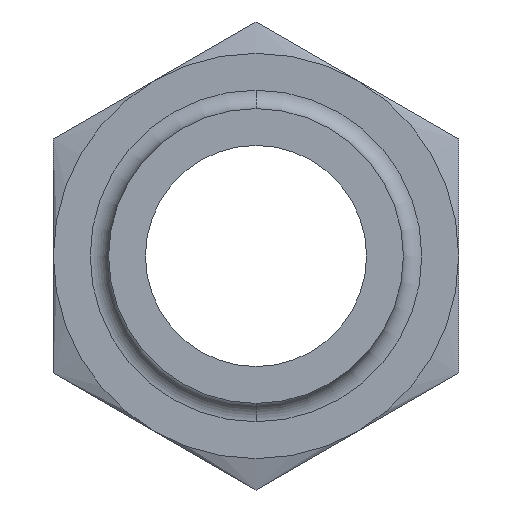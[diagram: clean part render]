
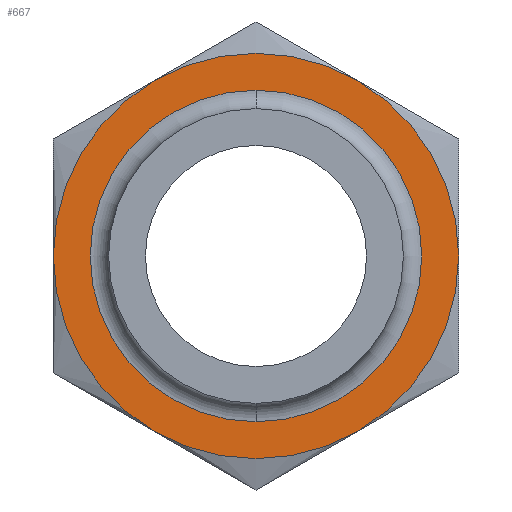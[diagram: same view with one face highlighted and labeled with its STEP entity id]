
A CAD part, left-side view. The second image highlights one B-rep face of the part: STEP entity #667.
In plain terms, the highlighted planar face has unit normal (-1, 0, 0).
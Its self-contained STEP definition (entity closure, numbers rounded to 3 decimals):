
#271 = VERTEX_POINT( '', #767 );
#273 = EDGE_CURVE( '', #395, #439, #769, .T. );
#281 = EDGE_CURVE( '', #337, #271, #777, .T. );
#325 = VERTEX_POINT( '', #827 );
#337 = VERTEX_POINT( '', #840 );
#359 = EDGE_CURVE( '', #497, #395, #865, .T. );
#395 = VERTEX_POINT( '', #907 );
#439 = VERTEX_POINT( '', #953 );
#455 = VERTEX_POINT( '', #972 );
#457 = VERTEX_POINT( '', #974 );
#497 = VERTEX_POINT( '', #1019 );
#539 = EDGE_CURVE( '', #271, #325, #1064, .T. );
#587 = EDGE_CURVE( '', #457, #455, #1113, .T. );
#593 = EDGE_CURVE( '', #439, #337, #1121, .T. );
#613 = EDGE_CURVE( '', #325, #497, #1144, .T. );
#641 = EDGE_CURVE( '', #455, #457, #1174, .T. );
#667 = ADVANCED_FACE( '', ( #1204, #1205 ), #1206, .T. );
#767 = CARTESIAN_POINT( '', ( -7., -2.75, -4.763 ) );
#769 = CIRCLE( '', #1313, 5.5 );
#777 = CIRCLE( '', #1326, 5.5 );
#827 = CARTESIAN_POINT( '', ( -7., -5.5, 0. ) );
#840 = CARTESIAN_POINT( '', ( -7., 2.75, -4.763 ) );
#865 = CIRCLE( '', #1447, 5.5 );
#907 = CARTESIAN_POINT( '', ( -7., 2.75, 4.763 ) );
#953 = CARTESIAN_POINT( '', ( -7., 5.5, 0. ) );
#972 = CARTESIAN_POINT( '', ( -7., -4.5, 0. ) );
#974 = CARTESIAN_POINT( '', ( -7., 4.5, 0. ) );
#1019 = CARTESIAN_POINT( '', ( -7., -2.75, 4.763 ) );
#1064 = CIRCLE( '', #1808, 5.5 );
#1113 = CIRCLE( '', #1902, 4.5 );
#1121 = CIRCLE( '', #1911, 5.5 );
#1144 = CIRCLE( '', #1949, 5.5 );
#1174 = CIRCLE( '', #1987, 4.5 );
#1204 = FACE_BOUND( '', #2024, .T. );
#1205 = FACE_OUTER_BOUND( '', #2025, .T. );
#1206 = PLANE( '', #2026 );
#1313 = AXIS2_PLACEMENT_3D( '', #2204, #2205, #2206 );
#1326 = AXIS2_PLACEMENT_3D( '', #2209, #2210, #2211 );
#1447 = AXIS2_PLACEMENT_3D( '', #2324, #2325, #2326 );
#1808 = AXIS2_PLACEMENT_3D( '', #2545, #2546, #2547 );
#1902 = AXIS2_PLACEMENT_3D( '', #2590, #2591, #2592 );
#1911 = AXIS2_PLACEMENT_3D( '', #2605, #2606, #2607 );
#1949 = AXIS2_PLACEMENT_3D( '', #2639, #2640, #2641 );
#1987 = AXIS2_PLACEMENT_3D( '', #2678, #2679, #2680 );
#2024 = EDGE_LOOP( '', ( #2728, #2729 ) );
#2025 = EDGE_LOOP( '', ( #2730, #2731, #2732, #2733, #2734, #2735 ) );
#2026 = AXIS2_PLACEMENT_3D( '', #2736, #2737, #2738 );
#2204 = CARTESIAN_POINT( '', ( -7., 0., 0. ) );
#2205 = DIRECTION( '', ( -1., 0., 0. ) );
#2206 = DIRECTION( '', ( 0., 1., 0. ) );
#2209 = CARTESIAN_POINT( '', ( -7., 0., 0. ) );
#2210 = DIRECTION( '', ( -1., 0., 0. ) );
#2211 = DIRECTION( '', ( 0., 1., 0. ) );
#2324 = CARTESIAN_POINT( '', ( -7., 0., 0. ) );
#2325 = DIRECTION( '', ( -1., 0., 0. ) );
#2326 = DIRECTION( '', ( 0., 1., 0. ) );
#2545 = CARTESIAN_POINT( '', ( -7., 0., 0. ) );
#2546 = DIRECTION( '', ( -1., 0., 0. ) );
#2547 = DIRECTION( '', ( 0., 1., 0. ) );
#2590 = CARTESIAN_POINT( '', ( -7., 0., 0. ) );
#2591 = DIRECTION( '', ( -1., 0., 0. ) );
#2592 = DIRECTION( '', ( 0., 1., 0. ) );
#2605 = CARTESIAN_POINT( '', ( -7., 0., 0. ) );
#2606 = DIRECTION( '', ( -1., 0., 0. ) );
#2607 = DIRECTION( '', ( 0., 1., 0. ) );
#2639 = CARTESIAN_POINT( '', ( -7., 0., 0. ) );
#2640 = DIRECTION( '', ( -1., 0., 0. ) );
#2641 = DIRECTION( '', ( 0., 1., 0. ) );
#2678 = CARTESIAN_POINT( '', ( -7., 0., 0. ) );
#2679 = DIRECTION( '', ( -1., 0., 0. ) );
#2680 = DIRECTION( '', ( 0., 1., 0. ) );
#2728 = ORIENTED_EDGE( '', *, *, #587, .F. );
#2729 = ORIENTED_EDGE( '', *, *, #641, .F. );
#2730 = ORIENTED_EDGE( '', *, *, #593, .T. );
#2731 = ORIENTED_EDGE( '', *, *, #281, .T. );
#2732 = ORIENTED_EDGE( '', *, *, #539, .T. );
#2733 = ORIENTED_EDGE( '', *, *, #613, .T. );
#2734 = ORIENTED_EDGE( '', *, *, #359, .T. );
#2735 = ORIENTED_EDGE( '', *, *, #273, .T. );
#2736 = CARTESIAN_POINT( '', ( -7., 5., 0. ) );
#2737 = DIRECTION( '', ( -1., 0., 0. ) );
#2738 = DIRECTION( '', ( 0., 1., 0. ) );
